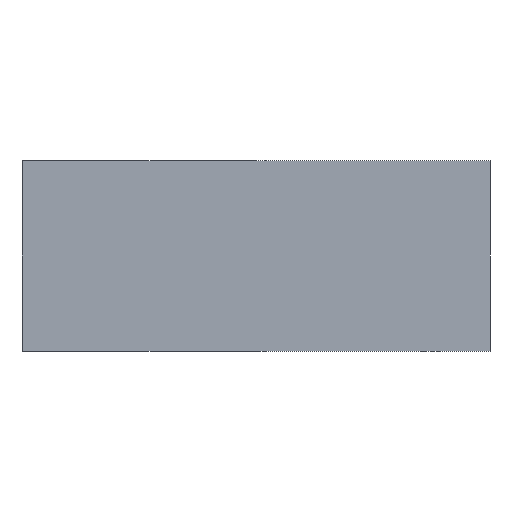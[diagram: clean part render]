
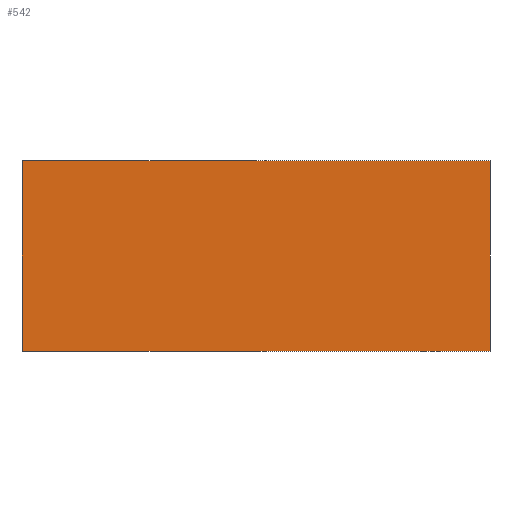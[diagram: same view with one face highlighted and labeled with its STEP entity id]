
A CAD part, left-side view. The second image highlights one B-rep face of the part: STEP entity #542.
In plain terms, the highlighted planar face has unit normal (-1, 0, 0).
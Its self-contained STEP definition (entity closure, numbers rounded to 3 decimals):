
#375 = VERTEX_POINT ( 'NONE', #2061 ) ;
#497 = DIRECTION ( 'NONE',  ( 1., 0., 0. ) ) ;
#542 = ADVANCED_FACE ( 'NONE', ( #2730 ), #2140, .F. ) ;
#606 = VECTOR ( 'NONE', #2503, 1000. ) ;
#610 = VERTEX_POINT ( 'NONE', #2932 ) ;
#868 = EDGE_CURVE ( 'NONE', #375, #1842, #1868, .T. ) ;
#931 = ORIENTED_EDGE ( 'NONE', *, *, #1848, .F. ) ;
#936 = CARTESIAN_POINT ( 'NONE',  ( -98., -60.5, 49.3 ) ) ;
#1244 = VERTEX_POINT ( 'NONE', #3000 ) ;
#1283 = EDGE_LOOP ( 'NONE', ( #1547, #3426, #931, #3188 ) ) ;
#1352 = AXIS2_PLACEMENT_3D ( 'NONE', #1850, #497, #3298 ) ;
#1547 = ORIENTED_EDGE ( 'NONE', *, *, #2233, .T. ) ;
#1607 = LINE ( 'NONE', #936, #2721 ) ;
#1629 = LINE ( 'NONE', #2673, #2659 ) ;
#1680 = LINE ( 'NONE', #3353, #606 ) ;
#1842 = VERTEX_POINT ( 'NONE', #2203 ) ;
#1848 = EDGE_CURVE ( 'NONE', #375, #610, #1680, .T. ) ;
#1850 = CARTESIAN_POINT ( 'NONE',  ( -98., -60.5, 49.3 ) ) ;
#1868 = LINE ( 'NONE', #1980, #2428 ) ;
#1966 = EDGE_CURVE ( 'NONE', #610, #1244, #1607, .T. ) ;
#1980 = CARTESIAN_POINT ( 'NONE',  ( -98., 60.5, 49.3 ) ) ;
#2061 = CARTESIAN_POINT ( 'NONE',  ( -98., 60.5, 49.3 ) ) ;
#2140 = PLANE ( 'NONE',  #1352 ) ;
#2203 = CARTESIAN_POINT ( 'NONE',  ( -98., 60.5, 0. ) ) ;
#2233 = EDGE_CURVE ( 'NONE', #1842, #1244, #1629, .T. ) ;
#2428 = VECTOR ( 'NONE', #3088, 1000. ) ;
#2503 = DIRECTION ( 'NONE',  ( 0., -1., 0. ) ) ;
#2546 = DIRECTION ( 'NONE',  ( 0., 0., -1. ) ) ;
#2659 = VECTOR ( 'NONE', #3313, 1000. ) ;
#2673 = CARTESIAN_POINT ( 'NONE',  ( -98., -60.5, 0. ) ) ;
#2721 = VECTOR ( 'NONE', #2546, 1000. ) ;
#2730 = FACE_OUTER_BOUND ( 'NONE', #1283, .T. ) ;
#2932 = CARTESIAN_POINT ( 'NONE',  ( -98., -60.5, 49.3 ) ) ;
#3000 = CARTESIAN_POINT ( 'NONE',  ( -98., -60.5, 0. ) ) ;
#3088 = DIRECTION ( 'NONE',  ( 0., 0., -1. ) ) ;
#3188 = ORIENTED_EDGE ( 'NONE', *, *, #868, .T. ) ;
#3298 = DIRECTION ( 'NONE',  ( 0., 0., -1. ) ) ;
#3313 = DIRECTION ( 'NONE',  ( 0., -1., 0. ) ) ;
#3353 = CARTESIAN_POINT ( 'NONE',  ( -98., -60.5, 49.3 ) ) ;
#3426 = ORIENTED_EDGE ( 'NONE', *, *, #1966, .F. ) ;
